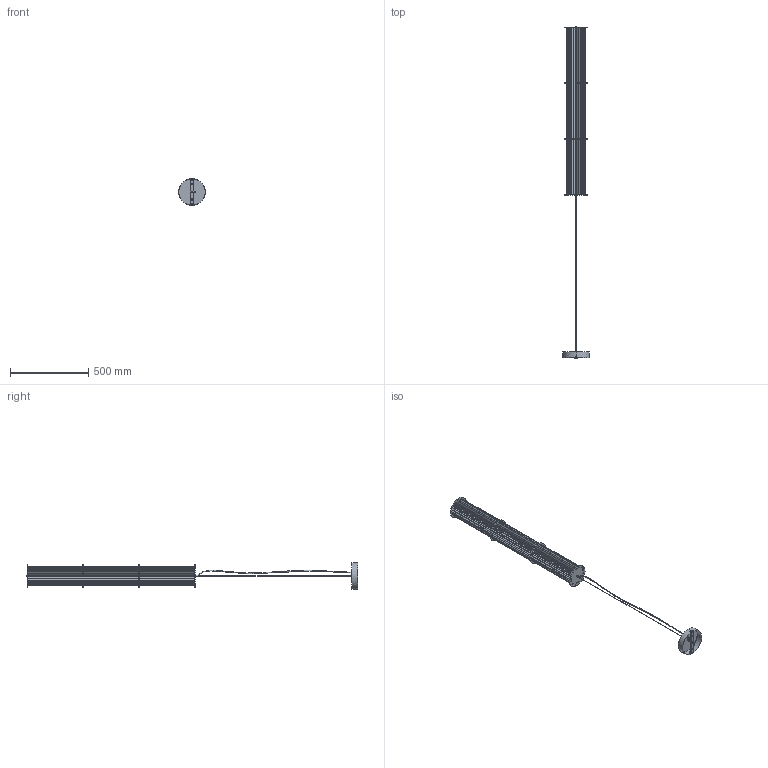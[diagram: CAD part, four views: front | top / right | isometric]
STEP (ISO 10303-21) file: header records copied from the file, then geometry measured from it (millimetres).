
FILE_DESCRIPTION (( 'STEP AP203' ), '1' );
FILE_NAME ('ORI_OR.S107.14_Suspensio 107cm (FORMA).STEP', '2025-07-08T07:53:00', ( '' ), ( '' ), 'SwSTEP 2.0', 'SolidWorks 2013', '' );
FILE_SCHEMA (( 'CONFIG_CONTROL_DESIGN' ));
Length unit declared in the file: millimetre
Products named in the file (13): AR077_FLORON Ø172x40 (DOS FORATS); GI464-Disc Ø145x2_pas 101; GI463-Disc Ø145x2_pas 10; TP477_Pantalla plisada ORI (24 plecs); AG019_M4x8; GI471_Tija superior Ø12x50 ranura lat. M10x1_pasØ2; GU024 - SUSPENSOR M10 Cable Ø1.5 (BLACK); GU023_CABLE ACER Ø1.5-bola Ø5 (BLACK); KO219_Cable elèctric ORI suspensio; GI111_Finalet Ø12x7_M10x1; MS050_Pasacable abierto Ø11xØ4_498070; ORI_OR.S107.14_Suspensio 107cm (FORMA); AR059-travesaño reforzado 165x20 2xM4
Assembly tree (17 placements, depth 2):
  ORI_OR.S107.14_Suspensio 107cm (FORMA)
    GI463-Disc Ø145x2_pas 10  x2
    GI111_Finalet Ø12x7_M10x1
    GI471_Tija superior Ø12x50 ranura lat. M10x1_pasØ2
    TP477_Pantalla plisada ORI (24 plecs)  x3
    KO219_Cable elèctric ORI suspensio
    GU023_CABLE ACER Ø1.5-bola Ø5 (BLACK)
    AR077_FLORON Ø172x40 (DOS FORATS)
    GU024 - SUSPENSOR M10 Cable Ø1.5 (BLACK)
    MS050_Pasacable abierto Ø11xØ4_498070
    AG019_M4x8  x2
    GI464-Disc Ø145x2_pas 101  x2
    AR059-travesaño reforzado 165x20 2xM4
Bounding box: 172 x 2121 x 176.5 mm (x, y, z)
Volume: 504263.7 mm3; surface area: 1551666.9 mm2
Topology: 17 solids, 17 shells, 885 faces, 2455 edges, 1618 vertices
Faces by surface type: plane 530, cylinder 327, torus 16, cone 10, bspline 2
Entity records: 15358 total; most frequent: CARTESIAN_POINT 2957, DIRECTION 2353, ORIENTED_EDGE 2234, EDGE_CURVE 1117, AXIS2_PLACEMENT_3D 820, VERTEX_POINT 728, VECTOR 713, LINE 713
